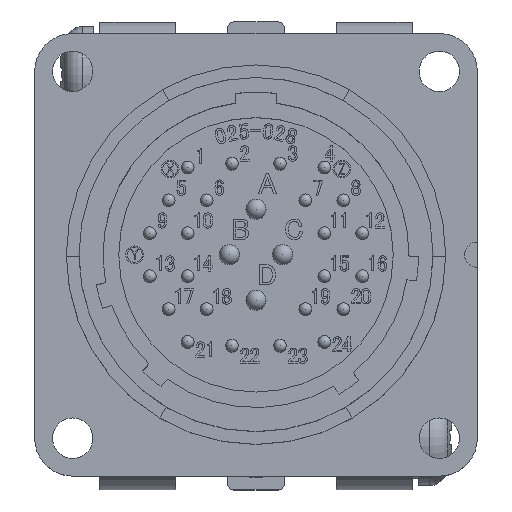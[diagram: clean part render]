
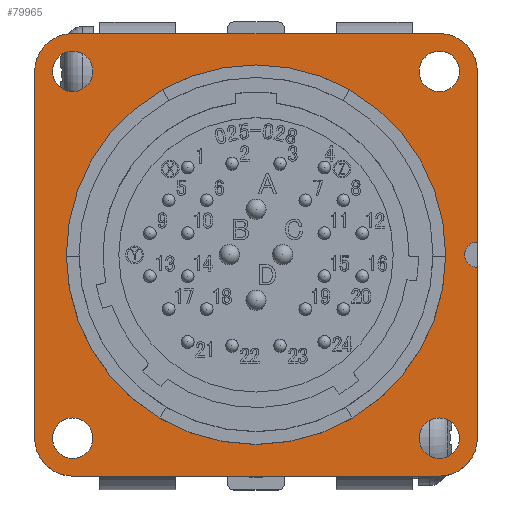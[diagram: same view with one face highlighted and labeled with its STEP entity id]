
A CAD part, top view. The second image highlights one B-rep face of the part: STEP entity #79965.
In plain terms, the highlighted planar face has unit normal (0, 0, 1).
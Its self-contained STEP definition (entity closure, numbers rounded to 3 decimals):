
#70 = CARTESIAN_POINT ( 'NONE',  ( 17.5, 0., -10.5 ) ) ;
#1601 = CARTESIAN_POINT ( 'NONE',  ( 0., 17.5, -10.5 ) ) ;
#3151 = DIRECTION ( 'NONE',  ( -1., 0., 0. ) ) ;
#3276 = FACE_BOUND ( 'NONE', #31643, .T. ) ;
#3871 = AXIS2_PLACEMENT_3D ( 'NONE', #70105, #44998, #3151 ) ;
#3921 = CARTESIAN_POINT ( 'NONE',  ( 17.5, -1., -10.5 ) ) ;
#5138 = VECTOR ( 'NONE', #17624, 1000. ) ;
#5849 = AXIS2_PLACEMENT_3D ( 'NONE', #40265, #48752, #57214 ) ;
#6101 = DIRECTION ( 'NONE',  ( 0., 1., 0. ) ) ;
#8056 = VERTEX_POINT ( 'NONE', #38560 ) ;
#8408 = CIRCLE ( 'NONE', #5849, 3. ) ;
#9758 = DIRECTION ( 'NONE',  ( 0., 0., 1. ) ) ;
#10506 = ORIENTED_EDGE ( 'NONE', *, *, #27989, .T. ) ;
#12256 = EDGE_LOOP ( 'NONE', ( #86253 ) ) ;
#12593 = CARTESIAN_POINT ( 'NONE',  ( -14.5, 14.5, -10.5 ) ) ;
#12717 = EDGE_CURVE ( 'NONE', #8056, #8056, #92575, .T. ) ;
#12882 = CARTESIAN_POINT ( 'NONE',  ( -15., 0., -10.5 ) ) ;
#15530 = VERTEX_POINT ( 'NONE', #23123 ) ;
#16590 = EDGE_CURVE ( 'NONE', #85750, #85750, #76389, .T. ) ;
#17624 = DIRECTION ( 'NONE',  ( 1., 0., 0. ) ) ;
#17985 = EDGE_CURVE ( 'NONE', #61758, #97201, #66986, .T. ) ;
#19793 = VERTEX_POINT ( 'NONE', #12882 ) ;
#20237 = VERTEX_POINT ( 'NONE', #59102 ) ;
#20238 = EDGE_LOOP ( 'NONE', ( #69031 ) ) ;
#22114 = DIRECTION ( 'NONE',  ( -1., 0., 0. ) ) ;
#22415 = EDGE_LOOP ( 'NONE', ( #93442 ) ) ;
#23123 = CARTESIAN_POINT ( 'NONE',  ( 17.5, 14.5, -10.5 ) ) ;
#23673 = DIRECTION ( 'NONE',  ( 0., 0., -1. ) ) ;
#25335 = VECTOR ( 'NONE', #76868, 1000. ) ;
#26995 = DIRECTION ( 'NONE',  ( 0., 0., 1. ) ) ;
#27989 = EDGE_CURVE ( 'NONE', #19793, #19793, #31554, .T. ) ;
#28248 = FACE_BOUND ( 'NONE', #22415, .T. ) ;
#29003 = DIRECTION ( 'NONE',  ( 0., 0., -1. ) ) ;
#30033 = AXIS2_PLACEMENT_3D ( 'NONE', #71003, #29003, #103725 ) ;
#30448 = EDGE_CURVE ( 'NONE', #90052, #62769, #77457, .T. ) ;
#31496 = ORIENTED_EDGE ( 'NONE', *, *, #17985, .F. ) ;
#31554 = CIRCLE ( 'NONE', #54943, 15. ) ;
#31643 = EDGE_LOOP ( 'NONE', ( #108103 ) ) ;
#32426 = PLANE ( 'NONE',  #86602 ) ;
#32675 = EDGE_CURVE ( 'NONE', #36408, #42369, #95617, .T. ) ;
#33429 = CARTESIAN_POINT ( 'NONE',  ( 0., 17.5, -10.5 ) ) ;
#34362 = CARTESIAN_POINT ( 'NONE',  ( 17.5, 0., -10.5 ) ) ;
#34537 = ORIENTED_EDGE ( 'NONE', *, *, #37824, .F. ) ;
#35475 = ORIENTED_EDGE ( 'NONE', *, *, #36815, .F. ) ;
#36086 = LINE ( 'NONE', #70, #62413 ) ;
#36408 = VERTEX_POINT ( 'NONE', #45515 ) ;
#36815 = EDGE_CURVE ( 'NONE', #97201, #15530, #8408, .T. ) ;
#37824 = EDGE_CURVE ( 'NONE', #15530, #90052, #38505, .T. ) ;
#38505 = LINE ( 'NONE', #86058, #25335 ) ;
#38560 = CARTESIAN_POINT ( 'NONE',  ( -14.5, -16.1, -10.5 ) ) ;
#38772 = FACE_OUTER_BOUND ( 'NONE', #81995, .T. ) ;
#39598 = EDGE_CURVE ( 'NONE', #20237, #53338, #60621, .T. ) ;
#40265 = CARTESIAN_POINT ( 'NONE',  ( 14.5, 14.5, -10.5 ) ) ;
#40736 = CARTESIAN_POINT ( 'NONE',  ( 16.1, -14.5, -10.5 ) ) ;
#42083 = EDGE_LOOP ( 'NONE', ( #10506 ) ) ;
#42239 = CARTESIAN_POINT ( 'NONE',  ( 0., -17.5, -10.5 ) ) ;
#42369 = VERTEX_POINT ( 'NONE', #78827 ) ;
#43609 = CARTESIAN_POINT ( 'NONE',  ( 14.5, -14.5, -10.5 ) ) ;
#44725 = AXIS2_PLACEMENT_3D ( 'NONE', #43609, #94098, #61289 ) ;
#44831 = VECTOR ( 'NONE', #83163, 1000. ) ;
#44998 = DIRECTION ( 'NONE',  ( 0., 0., 1. ) ) ;
#45515 = CARTESIAN_POINT ( 'NONE',  ( -17.5, -14.5, -10.5 ) ) ;
#46413 = CARTESIAN_POINT ( 'NONE',  ( -14.5, 14.5, -10.5 ) ) ;
#48610 = ORIENTED_EDGE ( 'NONE', *, *, #39598, .T. ) ;
#48616 = VERTEX_POINT ( 'NONE', #50322 ) ;
#48725 = VERTEX_POINT ( 'NONE', #40736 ) ;
#48752 = DIRECTION ( 'NONE',  ( 0., 0., -1. ) ) ;
#49032 = ORIENTED_EDGE ( 'NONE', *, *, #32675, .T. ) ;
#49553 = ORIENTED_EDGE ( 'NONE', *, *, #72143, .F. ) ;
#50322 = CARTESIAN_POINT ( 'NONE',  ( 14.5, 16.1, -10.5 ) ) ;
#53338 = VERTEX_POINT ( 'NONE', #82794 ) ;
#54943 = AXIS2_PLACEMENT_3D ( 'NONE', #69466, #94515, #68728 ) ;
#55285 = DIRECTION ( 'NONE',  ( 0., 0., 1. ) ) ;
#55862 = CARTESIAN_POINT ( 'NONE',  ( -16.1, 14.5, -10.5 ) ) ;
#56418 = CARTESIAN_POINT ( 'NONE',  ( -17.5, 0., -10.5 ) ) ;
#57214 = DIRECTION ( 'NONE',  ( -1., 0., 0. ) ) ;
#59102 = CARTESIAN_POINT ( 'NONE',  ( 14.5, -17.5, -10.5 ) ) ;
#59264 = EDGE_CURVE ( 'NONE', #48725, #48725, #94104, .T. ) ;
#60300 = AXIS2_PLACEMENT_3D ( 'NONE', #46413, #55285, #88446 ) ;
#60621 = CIRCLE ( 'NONE', #3871, 3. ) ;
#61289 = DIRECTION ( 'NONE',  ( 1., 0., 0. ) ) ;
#61758 = VERTEX_POINT ( 'NONE', #91039 ) ;
#62413 = VECTOR ( 'NONE', #64374, 1000. ) ;
#62769 = VERTEX_POINT ( 'NONE', #3921 ) ;
#63491 = VERTEX_POINT ( 'NONE', #85046 ) ;
#64374 = DIRECTION ( 'NONE',  ( 0., -1., 0. ) ) ;
#64952 = AXIS2_PLACEMENT_3D ( 'NONE', #68961, #26995, #93665 ) ;
#66630 = ORIENTED_EDGE ( 'NONE', *, *, #69148, .F. ) ;
#66986 = LINE ( 'NONE', #33429, #5138 ) ;
#67156 = DIRECTION ( 'NONE',  ( 1., 0., 0. ) ) ;
#68728 = DIRECTION ( 'NONE',  ( -1., 0., 0. ) ) ;
#68961 = CARTESIAN_POINT ( 'NONE',  ( -14.5, -14.5, -10.5 ) ) ;
#69031 = ORIENTED_EDGE ( 'NONE', *, *, #12717, .T. ) ;
#69148 = EDGE_CURVE ( 'NONE', #62769, #53338, #36086, .T. ) ;
#69466 = CARTESIAN_POINT ( 'NONE',  ( 0., 0., -10.5 ) ) ;
#70105 = CARTESIAN_POINT ( 'NONE',  ( 14.5, -14.5, -10.5 ) ) ;
#71003 = CARTESIAN_POINT ( 'NONE',  ( 14.5, 14.5, -10.5 ) ) ;
#72143 = EDGE_CURVE ( 'NONE', #20237, #42369, #106798, .T. ) ;
#72920 = DIRECTION ( 'NONE',  ( 0., 0., -1. ) ) ;
#74883 = ORIENTED_EDGE ( 'NONE', *, *, #80285, .F. ) ;
#76389 = CIRCLE ( 'NONE', #81247, 1.6 ) ;
#76523 = ORIENTED_EDGE ( 'NONE', *, *, #30448, .F. ) ;
#76740 = EDGE_CURVE ( 'NONE', #61758, #63491, #95971, .T. ) ;
#76868 = DIRECTION ( 'NONE',  ( 0., -1., 0. ) ) ;
#76922 = AXIS2_PLACEMENT_3D ( 'NONE', #34362, #9758, #67156 ) ;
#77457 = CIRCLE ( 'NONE', #76922, 1. ) ;
#78317 = FACE_BOUND ( 'NONE', #42083, .T. ) ;
#78827 = CARTESIAN_POINT ( 'NONE',  ( -14.5, -17.5, -10.5 ) ) ;
#79965 = ADVANCED_FACE ( 'NONE', ( #38772, #28248, #78317, #3276, #82238, #107250 ), #32426, .F. ) ;
#80285 = EDGE_CURVE ( 'NONE', #36408, #63491, #98006, .T. ) ;
#80724 = CARTESIAN_POINT ( 'NONE',  ( -14.5, -14.5, -10.5 ) ) ;
#81247 = AXIS2_PLACEMENT_3D ( 'NONE', #12593, #72920, #22114 ) ;
#81995 = EDGE_LOOP ( 'NONE', ( #66630, #76523, #34537, #35475, #31496, #100235, #74883, #49032, #49553, #48610 ) ) ;
#82238 = FACE_BOUND ( 'NONE', #12256, .T. ) ;
#82794 = CARTESIAN_POINT ( 'NONE',  ( 17.5, -14.5, -10.5 ) ) ;
#83163 = DIRECTION ( 'NONE',  ( -1., 0., 0. ) ) ;
#85046 = CARTESIAN_POINT ( 'NONE',  ( -17.5, 14.5, -10.5 ) ) ;
#85750 = VERTEX_POINT ( 'NONE', #55862 ) ;
#86058 = CARTESIAN_POINT ( 'NONE',  ( 17.5, 0., -10.5 ) ) ;
#86158 = VECTOR ( 'NONE', #6101, 1000. ) ;
#86253 = ORIENTED_EDGE ( 'NONE', *, *, #59264, .T. ) ;
#86602 = AXIS2_PLACEMENT_3D ( 'NONE', #1601, #91335, #108262 ) ;
#88446 = DIRECTION ( 'NONE',  ( -1., 0., 0. ) ) ;
#90052 = VERTEX_POINT ( 'NONE', #99695 ) ;
#91039 = CARTESIAN_POINT ( 'NONE',  ( -14.5, 17.5, -10.5 ) ) ;
#91335 = DIRECTION ( 'NONE',  ( 0., 0., -1. ) ) ;
#92575 = CIRCLE ( 'NONE', #102979, 1.6 ) ;
#92713 = CIRCLE ( 'NONE', #30033, 1.6 ) ;
#93442 = ORIENTED_EDGE ( 'NONE', *, *, #16590, .T. ) ;
#93665 = DIRECTION ( 'NONE',  ( -1., 0., 0. ) ) ;
#94098 = DIRECTION ( 'NONE',  ( 0., 0., -1. ) ) ;
#94104 = CIRCLE ( 'NONE', #44725, 1.6 ) ;
#94515 = DIRECTION ( 'NONE',  ( 0., 0., -1. ) ) ;
#95617 = CIRCLE ( 'NONE', #64952, 3. ) ;
#95971 = CIRCLE ( 'NONE', #60300, 3. ) ;
#97201 = VERTEX_POINT ( 'NONE', #105457 ) ;
#98006 = LINE ( 'NONE', #56418, #86158 ) ;
#99695 = CARTESIAN_POINT ( 'NONE',  ( 17.5, 1., -10.5 ) ) ;
#99929 = EDGE_CURVE ( 'NONE', #48616, #48616, #92713, .T. ) ;
#100235 = ORIENTED_EDGE ( 'NONE', *, *, #76740, .T. ) ;
#100244 = DIRECTION ( 'NONE',  ( 0., -1., 0. ) ) ;
#102979 = AXIS2_PLACEMENT_3D ( 'NONE', #80724, #23673, #100244 ) ;
#103725 = DIRECTION ( 'NONE',  ( 0., 1., 0. ) ) ;
#105457 = CARTESIAN_POINT ( 'NONE',  ( 14.5, 17.5, -10.5 ) ) ;
#106798 = LINE ( 'NONE', #42239, #44831 ) ;
#107250 = FACE_BOUND ( 'NONE', #20238, .T. ) ;
#108103 = ORIENTED_EDGE ( 'NONE', *, *, #99929, .T. ) ;
#108262 = DIRECTION ( 'NONE',  ( 0., -1., 0. ) ) ;
